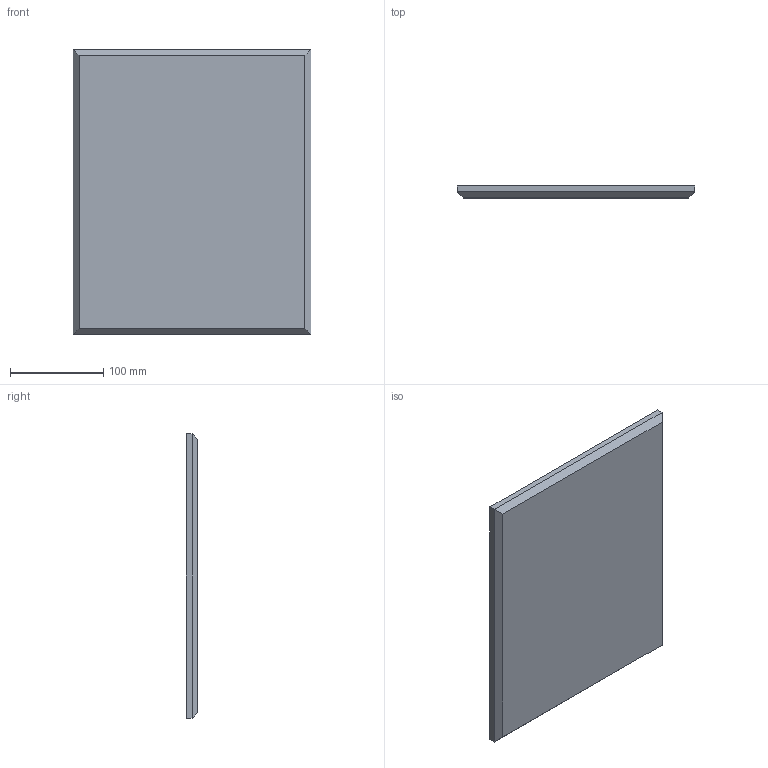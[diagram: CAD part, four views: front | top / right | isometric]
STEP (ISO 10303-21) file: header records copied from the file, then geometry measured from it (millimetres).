
FILE_DESCRIPTION(/* description */ (''),/* implementation_level */ '2;1');
FILE_NAME(/* name */ 'PET PLANQ_Beveled_10x12',/* time_stamp */ '2024-10-31T13:55:29-05:00',/* author */ (''),/* organization */ (''),/* preprocessor_version */ 'ST-DEVELOPER v19.2',/* originating_system */ 'Rhino 8.4',/* authorisation */ '');
FILE_SCHEMA (('CONFIG_CONTROL_DESIGN'));
Length unit declared in the file: inch
Products named in the file (1): Document
Bounding box: 254 x 12.7 x 304.8 mm (x, y, z)
Volume: 961033 mm3; surface area: 164807.9 mm2
Topology: 1 solids, 1 shells, 10 faces, 20 edges, 12 vertices
Faces by surface type: plane 10
Entity records: 310 total; most frequent: CARTESIAN_POINT 64, ORIENTED_EDGE 40, EDGE_CURVE 20, B_SPLINE_CURVE_WITH_KNOTS 20, DIRECTION 14, VERTEX_POINT 12, AXIS2_PLACEMENT_3D 12, ADVANCED_FACE 10
